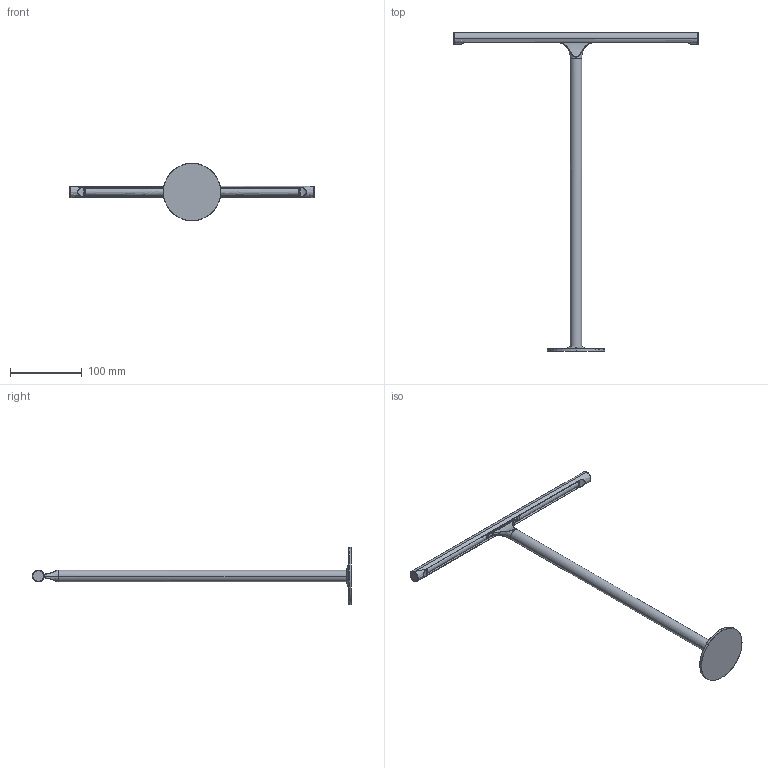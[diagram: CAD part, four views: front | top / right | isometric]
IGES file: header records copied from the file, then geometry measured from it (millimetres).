
Start section: SolidWorks IGES file using analytic representation for surfaces
Global section: file name: C:\Users\scott\Dropbox\Rakumba Industrial Design\PRODUCT\2 DEVELOPMENT\GALLERY\CAD\Gallery Lightweight CAD\Gallery - Integrated 340 Bankers Lamp.IGS; native system: SolidWorks 2017; preprocessor: SolidWorks 2017; author: scott; date: 240403.173956; units: millimetre
Bounding box: 340 x 443 x 80 mm (x, y, z)
Surface area: 61638.7 mm2 (no closed solid volume)
Topology: 0 solids, 0 shells, 194 faces, 2933 edges, 2929 vertices
Faces by surface type: bspline 127, revolution 67
